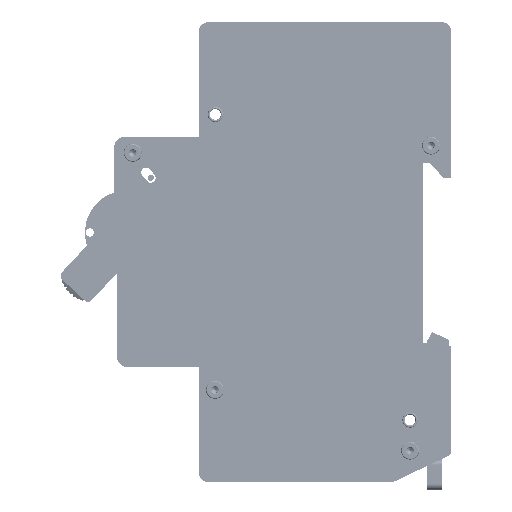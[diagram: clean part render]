
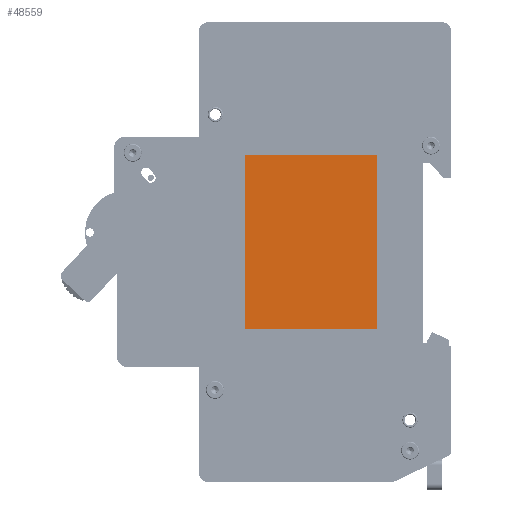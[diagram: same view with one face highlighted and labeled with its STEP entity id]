
A CAD part, left-side view. The second image highlights one B-rep face of the part: STEP entity #48559.
In plain terms, the highlighted planar face has unit normal (-1, 0, 0) as drawn and (0, 0, -1) by its records, which use the part's own axes.
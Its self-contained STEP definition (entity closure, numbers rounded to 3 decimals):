
#959 = LINE ( 'NONE', #26356, #28420 ) ;
#1117 = DIRECTION ( 'NONE',  ( 1., 0., 0. ) ) ;
#1438 = CARTESIAN_POINT ( 'NONE',  ( 34., 0., 0. ) ) ;
#4411 = LINE ( 'NONE', #15794, #20793 ) ;
#4984 = EDGE_CURVE ( 'NONE', #43767, #14479, #30319, .T. ) ;
#6001 = DIRECTION ( 'NONE',  ( 0., 1., 0. ) ) ;
#10229 = EDGE_CURVE ( 'NONE', #17959, #30735, #4411, .T. ) ;
#10715 = EDGE_LOOP ( 'NONE', ( #44557, #49931, #42753, #31958 ) ) ;
#10763 = DIRECTION ( 'NONE',  ( 0., -1., 0. ) ) ;
#14479 = VERTEX_POINT ( 'NONE', #28312 ) ;
#15794 = CARTESIAN_POINT ( 'NONE',  ( 0., 0., 0. ) ) ;
#16512 = DIRECTION ( 'NONE',  ( 0., -1., 0. ) ) ;
#16630 = VECTOR ( 'NONE', #6001, 1000. ) ;
#17959 = VERTEX_POINT ( 'NONE', #51886 ) ;
#20793 = VECTOR ( 'NONE', #16512, 1000. ) ;
#23390 = DIRECTION ( 'NONE',  ( 0., 0., -1. ) ) ;
#25928 = FACE_OUTER_BOUND ( 'NONE', #10715, .T. ) ;
#26356 = CARTESIAN_POINT ( 'NONE',  ( 0., 0., 0. ) ) ;
#28208 = CARTESIAN_POINT ( 'NONE',  ( 0., 26., 0. ) ) ;
#28312 = CARTESIAN_POINT ( 'NONE',  ( 34., 26., 0. ) ) ;
#28330 = VECTOR ( 'NONE', #44883, 1000. ) ;
#28420 = VECTOR ( 'NONE', #1117, 1000. ) ;
#30319 = LINE ( 'NONE', #1438, #16630 ) ;
#30735 = VERTEX_POINT ( 'NONE', #38626 ) ;
#31958 = ORIENTED_EDGE ( 'NONE', *, *, #34382, .F. ) ;
#33616 = CARTESIAN_POINT ( 'NONE',  ( 34., 0., 0. ) ) ;
#34382 = EDGE_CURVE ( 'NONE', #30735, #43767, #959, .T. ) ;
#35441 = CARTESIAN_POINT ( 'NONE',  ( 0., 0., 0. ) ) ;
#36009 = EDGE_CURVE ( 'NONE', #14479, #17959, #50590, .T. ) ;
#38626 = CARTESIAN_POINT ( 'NONE',  ( 0., 0., 0. ) ) ;
#39628 = PLANE ( 'NONE',  #41348 ) ;
#41348 = AXIS2_PLACEMENT_3D ( 'NONE', #35441, #23390, #10763 ) ;
#42753 = ORIENTED_EDGE ( 'NONE', *, *, #4984, .F. ) ;
#43767 = VERTEX_POINT ( 'NONE', #33616 ) ;
#44557 = ORIENTED_EDGE ( 'NONE', *, *, #10229, .F. ) ;
#44883 = DIRECTION ( 'NONE',  ( -1., 0., 0. ) ) ;
#48559 = ADVANCED_FACE ( 'NONE', ( #25928 ), #39628, .T. ) ;
#49931 = ORIENTED_EDGE ( 'NONE', *, *, #36009, .F. ) ;
#50590 = LINE ( 'NONE', #28208, #28330 ) ;
#51886 = CARTESIAN_POINT ( 'NONE',  ( 0., 26., 0. ) ) ;
